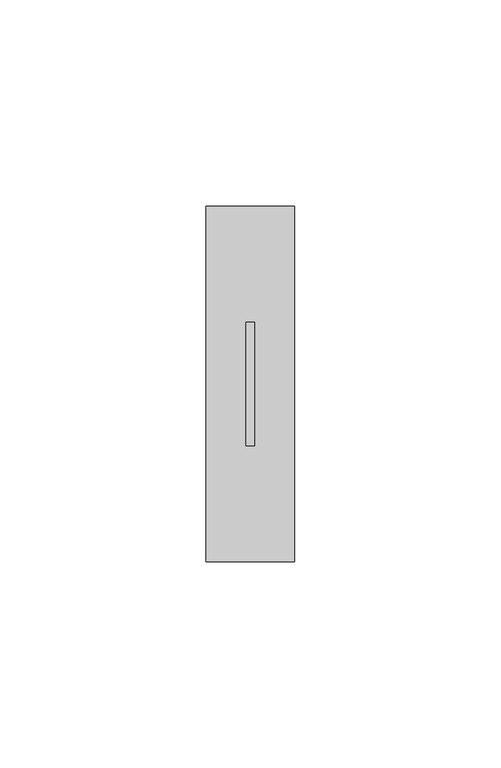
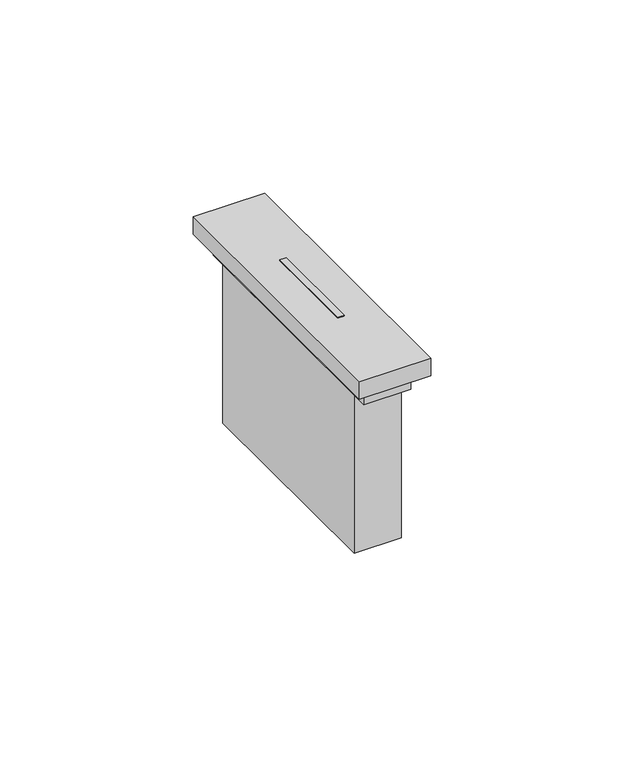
"""IFC4 building model written with IfcOpenShell, lengths in millimetres: proxy geometry, BT_LN-ComandoConnesso1M : Comando Tapparelle - Art. K4027C - 1M - Cover Bianco."""

from ifc_helpers import new_model, si_unit, frame, origin, origin_with_axes, place, context, project, spatial, polyline, outline, extrude, source, transform, mapped, element, save


def electrical_fixtures_52576e28(model_context):
    return source(origin(), model_context, "Body", "SweptSolid", [
        extrude(outline(polyline([(-7.0, 39.0), (7.0, 39.0), (7.0, -39.0), (-7.0, -39.0), (-7.0, 39.0)])), frame((0.0, 0.0, 50.0), z_axis=(0.0, 0.0, 1.0), x_axis=(1.0, 0.0, 0.0)), (0.0, 0.0, 1.0), 5.5),
        extrude(outline(polyline([(-7.0, 34.0), (7.0, 34.0), (7.0, -34.0), (-7.0, -34.0), (-7.0, 34.0)])), origin_with_axes(), (0.0, 0.0, 1.0), 50.0),
        extrude(outline(polyline([(-1.0, 15.0), (1.0, 15.0), (1.0, -15.0), (-1.0, -15.0), (-1.0, 15.0)])), frame((0.0, 0.0, 55.5), z_axis=(0.0, 0.0, 1.0), x_axis=(1.0, 0.0, 0.0)), (0.0, 0.0, 1.0), 5.5),
        extrude(outline(polyline([(-10.7, -43.0), (-10.7, 43.0), (10.7, 43.0), (10.7, -43.0), (-10.7, -43.0)]), holes=[polyline([(-1.0, 15.0), (-1.0, -15.0), (1.0, -15.0), (1.0, 15.0), (-1.0, 15.0)])]), frame((0.0, 0.0, 55.5), z_axis=(0.0, 0.0, 1.0), x_axis=(1.0, 0.0, 0.0)), (0.0, 0.0, 1.0), 5.5),
    ])


if __name__ == "__main__":
    model = new_model("IFC4")
    model_context = context("Model", 3, world=origin())
    ifc_project = project(units=[si_unit("LENGTHUNIT", "METRE", prefix="MILLI")], contexts=[model_context])
    site = spatial("IfcSite", under=ifc_project)
    building = spatial("IfcBuilding", under=site)
    placement = place(None, origin())
    electrical_fixtures_shape = electrical_fixtures_52576e28(model_context)
    element("IfcBuildingElementProxy", 1, Name="BT_LN-ComandoConnesso1M : Comando Tapparelle - Art. K4027C - 1M - Cover Bianco", ObjectType="BT_LN-ComandoConnesso1M : Comando Tapparelle - Art. K4027C - 1M - Cover Bianco", at=placement, inside=building, context=model_context, shape_type="MappedRepresentation", body=[
        mapped(electrical_fixtures_shape, transform((0.0, 0.0, 0.0), x_axis=(1.0, 0.0, 0.0), y_axis=(0.0, 1.0, 0.0), z_axis=(0.0, 0.0, 1.0))),
    ])
    save(model, "model.ifc")
